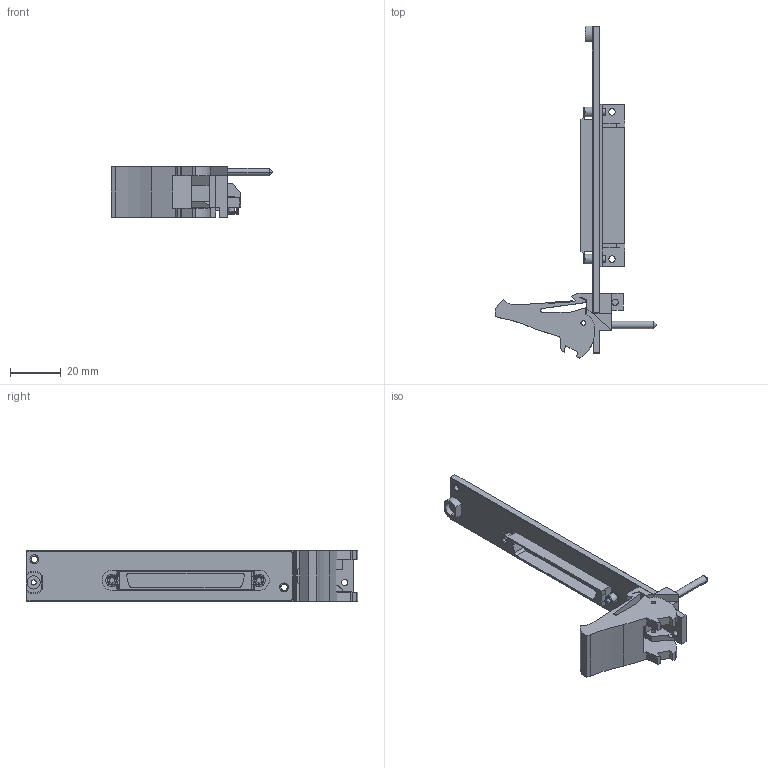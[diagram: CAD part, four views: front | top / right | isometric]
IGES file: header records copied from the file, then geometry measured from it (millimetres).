
Start section:  PTC IGES file: cu_pxi-6534.igs
Global section: file name: cu_pxi-6534.igs; native system: Pro/ENGINEER by Parametric Technology Corporation; preprocessor: 2006080; author: lmcdanie; organization: Unknown; date: 070803.160138; units: inch
Bounding box: 63.53 x 130.62 x 20.02 mm (x, y, z)
Surface area: 15081.8 mm2 (no closed solid volume)
Topology: 0 solids, 0 shells, 346 faces, 1880 edges, 1880 vertices
Faces by surface type: bspline 235, revolution 111
